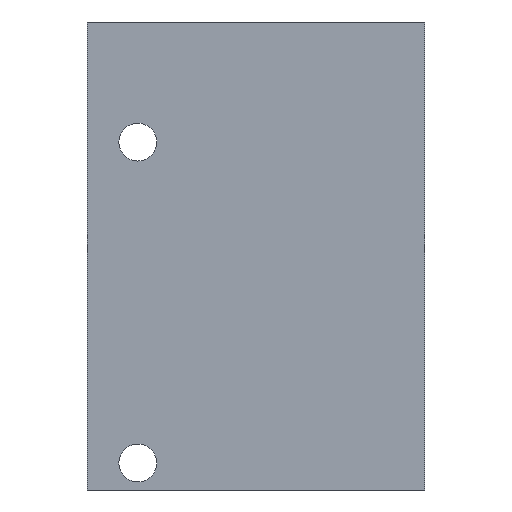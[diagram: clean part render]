
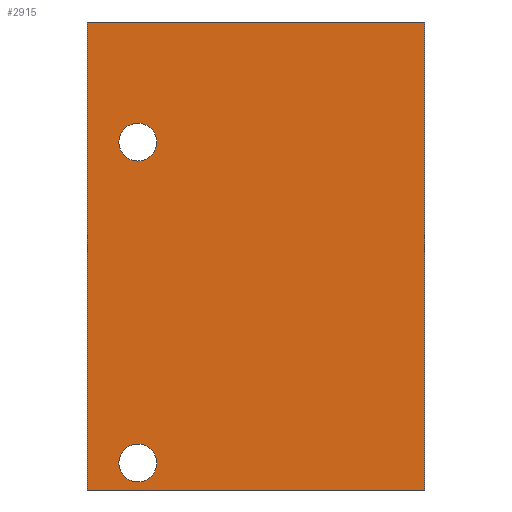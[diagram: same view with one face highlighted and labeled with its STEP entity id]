
A CAD part, front view. The second image highlights one B-rep face of the part: STEP entity #2915.
In plain terms, the highlighted planar face has unit normal (0, -1, 0).
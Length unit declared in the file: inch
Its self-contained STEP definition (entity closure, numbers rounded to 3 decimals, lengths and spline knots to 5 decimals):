
#113=CIRCLE('',#3078,0.14);
#115=CIRCLE('',#3081,0.14);
#280=FACE_BOUND('',#746,.T.);
#281=FACE_BOUND('',#747,.T.);
#282=FACE_BOUND('',#748,.T.);
#746=EDGE_LOOP('',(#2429));
#747=EDGE_LOOP('',(#2430));
#748=EDGE_LOOP('',(#2431,#2432,#2433,#2434));
#914=LINE('',#4357,#1114);
#1054=LINE('',#4944,#1254);
#1056=LINE('',#5134,#1256);
#1058=LINE('',#5145,#1258);
#1114=VECTOR('',#3333,3.464);
#1254=VECTOR('',#3571,3.464);
#1256=VECTOR('',#3683,2.5);
#1258=VECTOR('',#3697,2.5);
#1312=VERTEX_POINT('',#4354);
#1313=VERTEX_POINT('',#4356);
#1424=VERTEX_POINT('',#4937);
#1427=VERTEX_POINT('',#4942);
#1443=VERTEX_POINT('',#4989);
#1445=VERTEX_POINT('',#4994);
#1598=EDGE_CURVE('',#1313,#1312,#914,.T.);
#1767=EDGE_CURVE('',#1427,#1424,#1054,.T.);
#1783=EDGE_CURVE('',#1443,#1443,#113,.T.);
#1785=EDGE_CURVE('',#1445,#1445,#115,.T.);
#1800=EDGE_CURVE('',#1312,#1424,#1056,.T.);
#1805=EDGE_CURVE('',#1427,#1313,#1058,.T.);
#2429=ORIENTED_EDGE('',*,*,#1783,.T.);
#2430=ORIENTED_EDGE('',*,*,#1785,.T.);
#2431=ORIENTED_EDGE('',*,*,#1800,.T.);
#2432=ORIENTED_EDGE('',*,*,#1767,.F.);
#2433=ORIENTED_EDGE('',*,*,#1805,.T.);
#2434=ORIENTED_EDGE('',*,*,#1598,.T.);
#2632=PLANE('',#3121);
#2915=ADVANCED_FACE('',(#280,#281,#282),#2632,.T.);
#3078=AXIS2_PLACEMENT_3D('',#4990,#3630,#3631);
#3081=AXIS2_PLACEMENT_3D('',#4995,#3636,#3637);
#3121=AXIS2_PLACEMENT_3D('',#5161,#3720,#3721);
#3333=DIRECTION('',(0.,0.,-1.));
#3571=DIRECTION('',(0.,0.,-1.));
#3630=DIRECTION('center_axis',(0.,1.,0.));
#3631=DIRECTION('ref_axis',(1.,0.,0.));
#3636=DIRECTION('center_axis',(0.,1.,0.));
#3637=DIRECTION('ref_axis',(1.,0.,0.));
#3683=DIRECTION('',(1.,0.,0.));
#3697=DIRECTION('',(-1.,0.,0.));
#3720=DIRECTION('center_axis',(0.,-1.,0.));
#3721=DIRECTION('ref_axis',(0.,0.,-1.));
#4354=CARTESIAN_POINT('',(-1.25,-0.75,-3.464));
#4356=CARTESIAN_POINT('',(-1.25,-0.75,0.));
#4357=CARTESIAN_POINT('',(-1.25,-0.75,0.));
#4937=CARTESIAN_POINT('',(1.25,-0.75,-3.464));
#4942=CARTESIAN_POINT('',(1.25,-0.75,0.));
#4944=CARTESIAN_POINT('',(1.25,-0.75,0.));
#4989=CARTESIAN_POINT('',(-0.735,-0.75,-0.889));
#4990=CARTESIAN_POINT('Origin',(-0.875,-0.75,-0.889));
#4994=CARTESIAN_POINT('',(-0.735,-0.75,-3.264));
#4995=CARTESIAN_POINT('Origin',(-0.875,-0.75,-3.264));
#5134=CARTESIAN_POINT('',(1.25,-0.75,-3.464));
#5145=CARTESIAN_POINT('',(1.25,-0.75,0.));
#5161=CARTESIAN_POINT('Origin',(-1.25,-0.75,0.));
